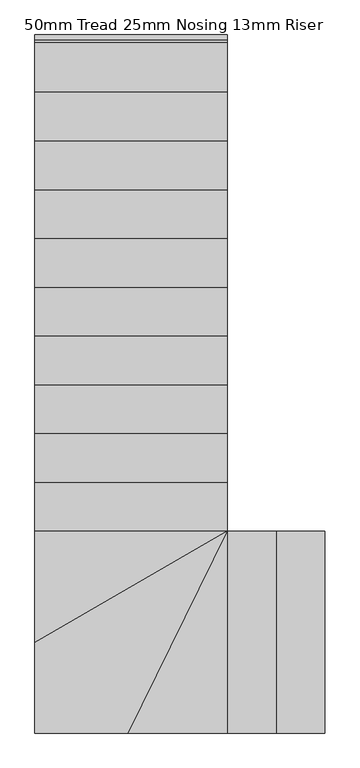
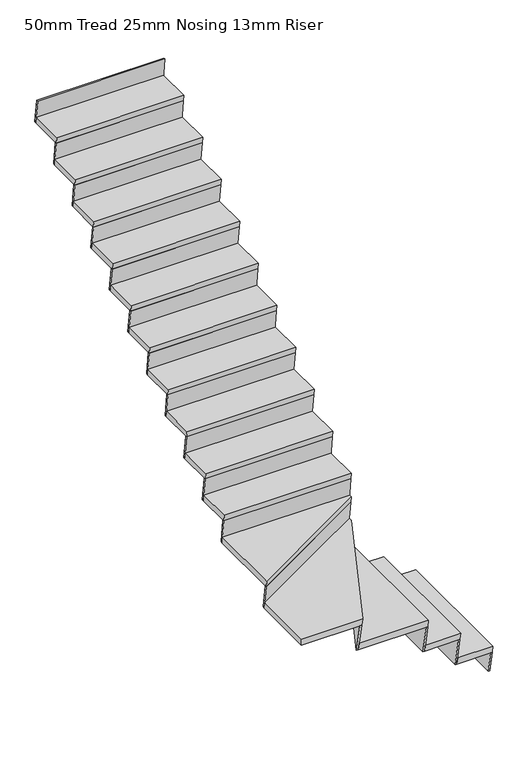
"""IFC4 building model written with IfcOpenShell, lengths in millimetres: stair flight geometry, 50mm Tread 25mm Nosing 13mm Riser."""

from ifc_helpers import new_model, si_unit, origin, place, context, project, spatial, faceted_brep, source, transform, mapped, element, save


def stair_flight_50mm_tread_25mm_nosing_13mm_riser_da69991a(model_context):
    return source(origin(), model_context, "Body", "Brep", [
        faceted_brep([(15457.1767773, 2665.7409405, -2976.5625), (15450.8775647, 2665.7409405, -3026.5625), (15450.8775647, 1598.9409405, -3026.5625), (15457.1767773, 1598.9409405, -2976.5625), (15739.9101773, 1598.9409405, -2976.5625), (15739.9101773, 2665.7409405, -2976.5625), (15733.6109647, 2665.7409405, -3026.5625), (15733.6109647, 1598.9409405, -3026.5625)], [[[0, 1, 2, 3]], [[3, 4, 5, 0]], [[2, 1, 6, 7]], [[4, 3, 2, 7]], [[0, 5, 6, 1]], [[5, 4, 7, 6]]]),
        faceted_brep([(15733.6109647, 2665.7409405, -3026.5625), (15714.9101773, 2665.7409405, -3175.0), (15702.3113677, 2665.7409405, -3175.0), (15721.0121551, 2665.7409405, -3026.5625), (15733.6109647, 1598.9409405, -3026.5625), (15721.0121551, 1598.9409405, -3026.5625), (15702.3113677, 1598.9409405, -3175.0), (15714.9101773, 1598.9409405, -3175.0)], [[[0, 1, 2, 3]], [[4, 5, 6, 7]], [[1, 0, 4, 7]], [[2, 1, 7, 6]], [[3, 2, 6, 5]], [[0, 3, 5, 4]]]),
        faceted_brep([(15475.8775647, 2665.7409405, -2828.125), (15450.8775647, 2665.7409405, -3026.5625), (15438.2787551, 2665.7409405, -3026.5625), (15463.2787551, 2665.7409405, -2828.125), (15475.8775647, 1598.9409405, -2828.125), (15463.2787551, 1598.9409405, -2828.125), (15438.2787551, 1598.9409405, -3026.5625), (15450.8775647, 1598.9409405, -3026.5625)], [[[0, 1, 2, 3]], [[4, 5, 6, 7]], [[1, 0, 4, 7]], [[2, 1, 7, 6]], [[3, 2, 6, 5]], [[0, 3, 5, 4]]]),
        faceted_brep([(15200.0017773, 1598.9409405, -2778.125), (15482.1767773, 1598.9409405, -2778.125), (15482.1767773, 2665.7409405, -2778.125), (15200.0017773, 2665.7409405, -2778.125), (15193.7025647, 1598.9409405, -2828.125), (15193.7025647, 2665.7409405, -2828.125), (15475.8775647, 2665.7409405, -2828.125), (15475.8775647, 1598.9409405, -2828.125)], [[[0, 1, 2, 3]], [[4, 5, 6, 7]], [[1, 0, 4, 7]], [[3, 2, 6, 5]], [[3, 5, 4, 0]], [[2, 1, 7, 6]]]),
        faceted_brep([(15218.7025647, 2665.7409405, -2629.6875), (15193.7025647, 2665.7409405, -2828.125), (15181.1037551, 2665.7409405, -2828.125), (15206.1037551, 2665.7409405, -2629.6875), (15218.7025647, 1598.9409405, -2629.6875), (15206.1037551, 1598.9409405, -2629.6875), (15181.1037551, 1598.9409405, -2828.125), (15193.7025647, 1598.9409405, -2828.125)], [[[0, 1, 2, 3]], [[4, 5, 6, 7]], [[1, 0, 4, 7]], [[2, 1, 7, 6]], [[3, 2, 6, 5]], [[0, 3, 5, 4]]]),
        faceted_brep([(14670.6313534, 1598.9409405, -2579.6875), (15225.0017773, 1598.9409405, -2579.6875), (15225.0017773, 2665.7409405, -2579.6875), (15225.0017773, 2722.2302167, -2579.6875), (15225.0017773, 2722.2302167, -2629.6875), (15225.0017773, 2665.7409405, -2629.6875), (15218.7025647, 2665.7409405, -2629.6875), (15218.7025647, 1598.9409405, -2629.6875), (14663.6067678, 1598.9409405, -2629.6875), (15219.3530342, 2725.018008, -2629.6875)], [[[0, 1, 2, 3]], [[4, 5, 6, 7, 8, 9]], [[1, 0, 8, 7]], [[3, 2, 5, 4]], [[3, 9, 8, 0]], [[2, 6, 5]], [[6, 2, 1, 7]], [[4, 9, 3]]]),
        faceted_brep([(15219.3530342, 2668.5287319, -2431.25), (15196.934585, 2679.5927787, -2629.6875), (15185.636754, 2685.1685316, -2629.6875), (15208.0552032, 2674.1044847, -2431.25), (14691.4855918, 1598.9409405, -2431.25), (14677.4359919, 1598.9409405, -2431.25), (14649.5571679, 1598.9409405, -2629.6875), (14663.6067678, 1598.9409405, -2629.6875)], [[[0, 1, 2, 3]], [[4, 5, 6, 7]], [[1, 0, 4, 7]], [[2, 1, 7, 6]], [[3, 2, 6, 5]], [[0, 3, 5, 4]]]),
        faceted_brep([(14209.0017773, 2106.6341192, -2381.25), (14209.0017773, 1598.9409405, -2381.25), (14698.5101773, 1598.9409405, -2381.25), (15225.0017773, 2665.7409405, -2381.25), (15225.0017773, 2694.62574, -2381.25), (14209.0017773, 2113.9121789, -2431.25), (15225.0017773, 2701.9037997, -2431.25), (15225.0017773, 2665.7409405, -2431.25), (15219.3530342, 2668.5287319, -2431.25), (14691.4855918, 1598.9409405, -2431.25), (14209.0017773, 1598.9409405, -2431.25)], [[[0, 1, 2, 3, 4]], [[5, 6, 7, 8, 9, 10]], [[1, 0, 5, 10]], [[4, 3, 7, 6]], [[4, 6, 5, 0]], [[8, 3, 2, 9]], [[2, 1, 10, 9]], [[3, 8, 7]]]),
        faceted_brep([(15225.0017773, 2673.0190002, -2232.8125), (15225.0017773, 2701.9037997, -2431.25), (15225.0017773, 2716.4603633, -2431.25), (15225.0017773, 2687.5755639, -2232.8125), (14209.0017773, 2085.0273795, -2232.8125), (14209.0017773, 2099.5839431, -2232.8125), (14209.0017773, 2128.4687425, -2431.25), (14209.0017773, 2113.9121789, -2431.25)], [[[0, 1, 2, 3]], [[4, 5, 6, 7]], [[1, 0, 4, 7]], [[2, 1, 7, 6]], [[3, 2, 6, 5]], [[0, 3, 5, 4]]]),
        faceted_brep([(14209.0017773, 2690.7409405, -2182.8125), (14209.0017773, 2077.7493198, -2182.8125), (15225.0017773, 2665.7409405, -2182.8125), (15225.0017773, 2690.7409405, -2182.8125), (14209.0017773, 2697.0401531, -2232.8125), (15225.0017773, 2697.0401531, -2232.8125), (15225.0017773, 2673.0190002, -2232.8125), (14209.0017773, 2085.0273795, -2232.8125)], [[[0, 1, 2, 3]], [[4, 5, 6, 7]], [[1, 0, 4, 7]], [[3, 2, 6, 5]], [[3, 5, 4, 0]], [[2, 1, 7, 6]]]),
        faceted_brep([(15225.0017773, 2672.0401531, -2034.375), (15225.0017773, 2697.0401531, -2232.8125), (15225.0017773, 2709.6389628, -2232.8125), (15225.0017773, 2684.6389628, -2034.375), (14209.0017773, 2672.0401531, -2034.375), (14209.0017773, 2684.6389628, -2034.375), (14209.0017773, 2709.6389628, -2232.8125), (14209.0017773, 2697.0401531, -2232.8125)], [[[0, 1, 2, 3]], [[4, 5, 6, 7]], [[1, 0, 4, 7]], [[2, 1, 7, 6]], [[3, 2, 6, 5]], [[0, 3, 5, 4]]]),
        faceted_brep([(14209.0017773, 2948.2024265, -1984.375), (14209.0017773, 2665.7409405, -1984.375), (15225.0017773, 2665.7409405, -1984.375), (15225.0017773, 2948.2024265, -1984.375), (14209.0017773, 2954.5016391, -2034.375), (15225.0017773, 2954.5016391, -2034.375), (15225.0017773, 2672.0401531, -2034.375), (14209.0017773, 2672.0401531, -2034.375)], [[[0, 1, 2, 3]], [[4, 5, 6, 7]], [[1, 0, 4, 7]], [[3, 2, 6, 5]], [[3, 5, 4, 0]], [[2, 1, 7, 6]]]),
        faceted_brep([(15225.0017773, 2929.5016391, -1835.9375), (15225.0017773, 2954.5016391, -2034.375), (15225.0017773, 2967.1004488, -2034.375), (15225.0017773, 2942.1004488, -1835.9375), (14209.0017773, 2929.5016391, -1835.9375), (14209.0017773, 2942.1004488, -1835.9375), (14209.0017773, 2967.1004488, -2034.375), (14209.0017773, 2954.5016391, -2034.375)], [[[0, 1, 2, 3]], [[4, 5, 6, 7]], [[1, 0, 4, 7]], [[2, 1, 7, 6]], [[3, 2, 6, 5]], [[0, 3, 5, 4]]]),
        faceted_brep([(14209.0017773, 3205.6639125, -1785.9375), (14209.0017773, 2923.2024265, -1785.9375), (15225.0017773, 2923.2024265, -1785.9375), (15225.0017773, 3205.6639125, -1785.9375), (14209.0017773, 3211.9631251, -1835.9375), (15225.0017773, 3211.9631251, -1835.9375), (15225.0017773, 2929.5016391, -1835.9375), (14209.0017773, 2929.5016391, -1835.9375)], [[[0, 1, 2, 3]], [[4, 5, 6, 7]], [[1, 0, 4, 7]], [[3, 2, 6, 5]], [[3, 5, 4, 0]], [[2, 1, 7, 6]]]),
        faceted_brep([(15225.0017773, 3186.9631251, -1637.5), (15225.0017773, 3211.9631251, -1835.9375), (15225.0017773, 3224.5619348, -1835.9375), (15225.0017773, 3199.5619348, -1637.5), (14209.0017773, 3186.9631251, -1637.5), (14209.0017773, 3199.5619348, -1637.5), (14209.0017773, 3224.5619348, -1835.9375), (14209.0017773, 3211.9631251, -1835.9375)], [[[0, 1, 2, 3]], [[4, 5, 6, 7]], [[1, 0, 4, 7]], [[2, 1, 7, 6]], [[3, 2, 6, 5]], [[0, 3, 5, 4]]]),
        faceted_brep([(14209.0017773, 3463.1253985, -1587.5), (14209.0017773, 3180.6639125, -1587.5), (15225.0017773, 3180.6639125, -1587.5), (15225.0017773, 3463.1253985, -1587.5), (14209.0017773, 3469.4246111, -1637.5), (15225.0017773, 3469.4246111, -1637.5), (15225.0017773, 3186.9631251, -1637.5), (14209.0017773, 3186.9631251, -1637.5)], [[[0, 1, 2, 3]], [[4, 5, 6, 7]], [[1, 0, 4, 7]], [[3, 2, 6, 5]], [[3, 5, 4, 0]], [[2, 1, 7, 6]]]),
        faceted_brep([(15225.0017773, 3444.4246111, -1439.0625), (15225.0017773, 3469.4246111, -1637.5), (15225.0017773, 3482.0234207, -1637.5), (15225.0017773, 3457.0234207, -1439.0625), (14209.0017773, 3444.4246111, -1439.0625), (14209.0017773, 3457.0234207, -1439.0625), (14209.0017773, 3482.0234207, -1637.5), (14209.0017773, 3469.4246111, -1637.5)], [[[0, 1, 2, 3]], [[4, 5, 6, 7]], [[1, 0, 4, 7]], [[2, 1, 7, 6]], [[3, 2, 6, 5]], [[0, 3, 5, 4]]]),
        faceted_brep([(14209.0017773, 3720.5868845, -1389.0625), (14209.0017773, 3438.1253985, -1389.0625), (15225.0017773, 3438.1253985, -1389.0625), (15225.0017773, 3720.5868845, -1389.0625), (14209.0017773, 3726.8860971, -1439.0625), (15225.0017773, 3726.8860971, -1439.0625), (15225.0017773, 3444.4246111, -1439.0625), (14209.0017773, 3444.4246111, -1439.0625)], [[[0, 1, 2, 3]], [[4, 5, 6, 7]], [[1, 0, 4, 7]], [[3, 2, 6, 5]], [[3, 5, 4, 0]], [[2, 1, 7, 6]]]),
        faceted_brep([(15225.0017773, 3701.8860971, -1240.625), (15225.0017773, 3726.8860971, -1439.0625), (15225.0017773, 3739.4849067, -1439.0625), (15225.0017773, 3714.4849067, -1240.625), (14209.0017773, 3701.8860971, -1240.625), (14209.0017773, 3714.4849067, -1240.625), (14209.0017773, 3739.4849067, -1439.0625), (14209.0017773, 3726.8860971, -1439.0625)], [[[0, 1, 2, 3]], [[4, 5, 6, 7]], [[1, 0, 4, 7]], [[2, 1, 7, 6]], [[3, 2, 6, 5]], [[0, 3, 5, 4]]]),
        faceted_brep([(14209.0017773, 3978.0483705, -1190.625), (14209.0017773, 3695.5868845, -1190.625), (15225.0017773, 3695.5868845, -1190.625), (15225.0017773, 3978.0483705, -1190.625), (14209.0017773, 3984.3475831, -1240.625), (15225.0017773, 3984.3475831, -1240.625), (15225.0017773, 3701.8860971, -1240.625), (14209.0017773, 3701.8860971, -1240.625)], [[[0, 1, 2, 3]], [[4, 5, 6, 7]], [[1, 0, 4, 7]], [[3, 2, 6, 5]], [[3, 5, 4, 0]], [[2, 1, 7, 6]]]),
        faceted_brep([(15225.0017773, 3959.3475831, -1042.1875), (15225.0017773, 3984.3475831, -1240.625), (15225.0017773, 3996.9463927, -1240.625), (15225.0017773, 3971.9463927, -1042.1875), (14209.0017773, 3959.3475831, -1042.1875), (14209.0017773, 3971.9463927, -1042.1875), (14209.0017773, 3996.9463927, -1240.625), (14209.0017773, 3984.3475831, -1240.625)], [[[0, 1, 2, 3]], [[4, 5, 6, 7]], [[1, 0, 4, 7]], [[2, 1, 7, 6]], [[3, 2, 6, 5]], [[0, 3, 5, 4]]]),
        faceted_brep([(14209.0017773, 4235.5098564, -992.1875), (14209.0017773, 3953.0483705, -992.1875), (15225.0017773, 3953.0483705, -992.1875), (15225.0017773, 4235.5098564, -992.1875), (14209.0017773, 4241.809069, -1042.1875), (15225.0017773, 4241.809069, -1042.1875), (15225.0017773, 3959.3475831, -1042.1875), (14209.0017773, 3959.3475831, -1042.1875)], [[[0, 1, 2, 3]], [[4, 5, 6, 7]], [[1, 0, 4, 7]], [[3, 2, 6, 5]], [[3, 5, 4, 0]], [[2, 1, 7, 6]]]),
        faceted_brep([(15225.0017773, 4216.809069, -843.75), (15225.0017773, 4241.809069, -1042.1875), (15225.0017773, 4254.4078787, -1042.1875), (15225.0017773, 4229.4078787, -843.75), (14209.0017773, 4216.809069, -843.75), (14209.0017773, 4229.4078787, -843.75), (14209.0017773, 4254.4078787, -1042.1875), (14209.0017773, 4241.809069, -1042.1875)], [[[0, 1, 2, 3]], [[4, 5, 6, 7]], [[1, 0, 4, 7]], [[2, 1, 7, 6]], [[3, 2, 6, 5]], [[0, 3, 5, 4]]]),
        faceted_brep([(14209.0017773, 4492.9713424, -793.75), (14209.0017773, 4210.5098564, -793.75), (15225.0017773, 4210.5098564, -793.75), (15225.0017773, 4492.9713424, -793.75), (14209.0017773, 4499.270555, -843.75), (15225.0017773, 4499.270555, -843.75), (15225.0017773, 4216.809069, -843.75), (14209.0017773, 4216.809069, -843.75)], [[[0, 1, 2, 3]], [[4, 5, 6, 7]], [[1, 0, 4, 7]], [[3, 2, 6, 5]], [[3, 5, 4, 0]], [[2, 1, 7, 6]]]),
        faceted_brep([(15225.0017773, 4474.270555, -645.3125), (15225.0017773, 4499.270555, -843.75), (15225.0017773, 4511.8693647, -843.75), (15225.0017773, 4486.8693647, -645.3125), (14209.0017773, 4474.270555, -645.3125), (14209.0017773, 4486.8693647, -645.3125), (14209.0017773, 4511.8693647, -843.75), (14209.0017773, 4499.270555, -843.75)], [[[0, 1, 2, 3]], [[4, 5, 6, 7]], [[1, 0, 4, 7]], [[2, 1, 7, 6]], [[3, 2, 6, 5]], [[0, 3, 5, 4]]]),
        faceted_brep([(14209.0017773, 4750.4328284, -595.3125), (14209.0017773, 4467.9713424, -595.3125), (15225.0017773, 4467.9713424, -595.3125), (15225.0017773, 4750.4328284, -595.3125), (14209.0017773, 4756.732041, -645.3125), (15225.0017773, 4756.732041, -645.3125), (15225.0017773, 4474.270555, -645.3125), (14209.0017773, 4474.270555, -645.3125)], [[[0, 1, 2, 3]], [[4, 5, 6, 7]], [[1, 0, 4, 7]], [[3, 2, 6, 5]], [[3, 5, 4, 0]], [[2, 1, 7, 6]]]),
        faceted_brep([(15225.0017773, 4731.732041, -446.875), (15225.0017773, 4756.732041, -645.3125), (15225.0017773, 4769.3308507, -645.3125), (15225.0017773, 4744.3308507, -446.875), (14209.0017773, 4731.732041, -446.875), (14209.0017773, 4744.3308507, -446.875), (14209.0017773, 4769.3308507, -645.3125), (14209.0017773, 4756.732041, -645.3125)], [[[0, 1, 2, 3]], [[4, 5, 6, 7]], [[1, 0, 4, 7]], [[2, 1, 7, 6]], [[3, 2, 6, 5]], [[0, 3, 5, 4]]]),
        faceted_brep([(14209.0017773, 5007.8943144, -396.875), (14209.0017773, 4725.4328284, -396.875), (15225.0017773, 4725.4328284, -396.875), (15225.0017773, 5007.8943144, -396.875), (14209.0017773, 5014.193527, -446.875), (15225.0017773, 5014.193527, -446.875), (15225.0017773, 4731.732041, -446.875), (14209.0017773, 4731.732041, -446.875)], [[[0, 1, 2, 3]], [[4, 5, 6, 7]], [[1, 0, 4, 7]], [[3, 2, 6, 5]], [[3, 5, 4, 0]], [[2, 1, 7, 6]]]),
        faceted_brep([(15225.0017773, 4989.193527, -248.4375), (15225.0017773, 5014.193527, -446.875), (15225.0017773, 5026.7923367, -446.875), (15225.0017773, 5001.7923367, -248.4375), (14209.0017773, 4989.193527, -248.4375), (14209.0017773, 5001.7923367, -248.4375), (14209.0017773, 5026.7923367, -446.875), (14209.0017773, 5014.193527, -446.875)], [[[0, 1, 2, 3]], [[4, 5, 6, 7]], [[1, 0, 4, 7]], [[2, 1, 7, 6]], [[3, 2, 6, 5]], [[0, 3, 5, 4]]]),
        faceted_brep([(15225.0017773, 5246.655013, -50.0), (15225.0017773, 5271.655013, -248.4375), (15225.0017773, 5284.2538227, -248.4375), (15225.0017773, 5259.2538227, -50.0), (14209.0017773, 5246.655013, -50.0), (14209.0017773, 5259.2538227, -50.0), (14209.0017773, 5284.2538227, -248.4375), (14209.0017773, 5271.655013, -248.4375)], [[[0, 1, 2, 3]], [[4, 5, 6, 7]], [[1, 0, 4, 7]], [[2, 1, 7, 6]], [[3, 2, 6, 5]], [[0, 3, 5, 4]]]),
        faceted_brep([(14209.0017773, 5265.3558004, -198.4375), (14209.0017773, 4982.8943144, -198.4375), (15225.0017773, 4982.8943144, -198.4375), (15225.0017773, 5265.3558004, -198.4375), (14209.0017773, 5271.655013, -248.4375), (15225.0017773, 5271.655013, -248.4375), (15225.0017773, 4989.193527, -248.4375), (14209.0017773, 4989.193527, -248.4375)], [[[0, 1, 2, 3]], [[4, 5, 6, 7]], [[1, 0, 4, 7]], [[3, 2, 6, 5]], [[3, 5, 4, 0]], [[2, 1, 7, 6]]]),
    ])


if __name__ == "__main__":
    model = new_model("IFC4")
    model_context = context("Model", 3, world=origin())
    ifc_project = project(units=[si_unit("LENGTHUNIT", "METRE", prefix="MILLI")], contexts=[model_context])
    site = spatial("IfcSite", under=ifc_project)
    building = spatial("IfcBuilding", under=site)
    placement = place(None, origin())
    stair_flight_50mm_tread_25mm_nosing_13mm_riser_shape = stair_flight_50mm_tread_25mm_nosing_13mm_riser_da69991a(model_context)
    element("IfcStairFlight", 1, ObjectType="50mm Tread 25mm Nosing 13mm Riser", at=placement, inside=building, context=model_context, shape_type="MappedRepresentation", body=[
        mapped(stair_flight_50mm_tread_25mm_nosing_13mm_riser_shape, transform((0.0, 0.0, 0.0), x_axis=(1.0, 0.0, 0.0), y_axis=(0.0, 1.0, 0.0), z_axis=(0.0, 0.0, 1.0))),
    ])
    save(model, "model.ifc")
